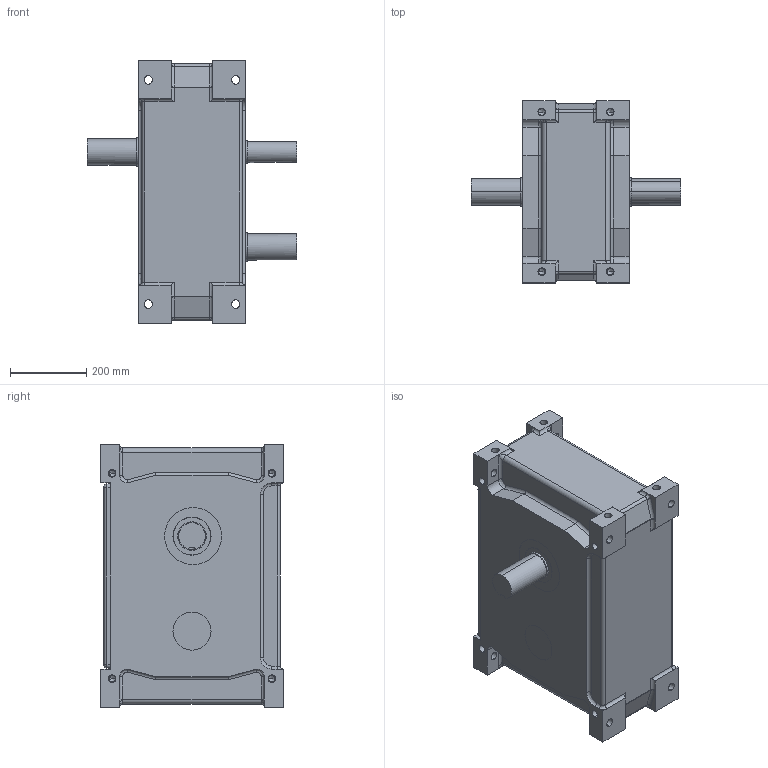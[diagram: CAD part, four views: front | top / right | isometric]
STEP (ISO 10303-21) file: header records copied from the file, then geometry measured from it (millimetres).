
FILE_DESCRIPTION (( 'STEP AP214' ), '1' );
FILE_NAME ('P250.STEP', '2018-08-24T08:23:05', ( '微软用户' ), ( '微软中国' ), 'SwSTEP 2.0', 'SolidWorks 2013', '' );
FILE_SCHEMA (( 'AUTOMOTIVE_DESIGN' ));
Length unit declared in the file: millimetre
Products named in the file (1): P250
Bounding box: 550 x 480 x 690 mm (x, y, z)
Volume: 82640175.7 mm3; surface area: 1487941.2 mm2
Topology: 1 solids, 1 shells, 730 faces, 1867 edges, 1176 vertices
Faces by surface type: plane 341, cylinder 203, bspline 154, cone 32
Entity records: 45332 total; most frequent: CARTESIAN_POINT 23470, ORIENTED_EDGE 3654, DIRECTION 3020, EDGE_CURVE 1827, VERTEX_POINT 1176, VECTOR 1160, LINE 1160, AXIS2_PLACEMENT_3D 930
